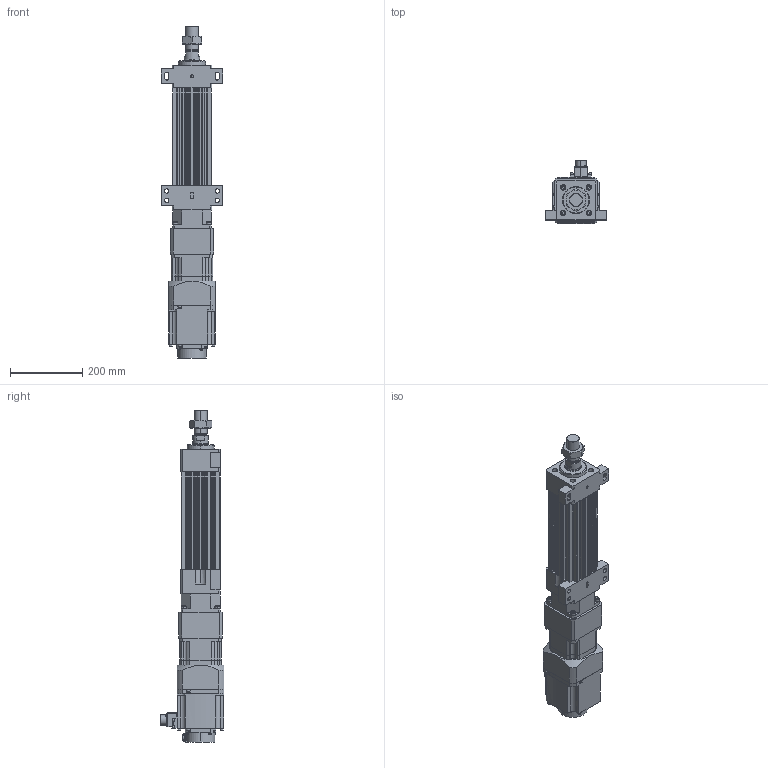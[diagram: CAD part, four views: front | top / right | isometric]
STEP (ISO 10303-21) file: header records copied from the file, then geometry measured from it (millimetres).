
FILE_DESCRIPTION (( 'STEP AP203' ), '1' );
FILE_NAME ('HES110NS(HS)-S100-W015G00-M-FFB.STEP', '2023-01-27T11:38:14', ( 'tms' ), ( '' ), 'SwSTEP 2.0', 'SolidWorks 2013', '' );
FILE_SCHEMA (( 'CONFIG_CONTROL_DESIGN' ));
Length unit declared in the file: millimetre
Products named in the file (8): AB115-003[HG-SR152]; HES110-S100-G120-FFB; P0401400706; AB1151; HG-SR152; HES110NS(HS)-S100-W015G00-M-FFB; HES110 ROD M ST100; M36X1.5P
Assembly tree (7 placements, depth 3):
  HES110NS(HS)-S100-W015G00-M-FFB
    HES110-S100-G120-FFB
    HES110 ROD M ST100
    M36X1.5P
    AB115-003[HG-SR152]
      AB1151
      P0401400706
    HG-SR152
Bounding box: 170 x 177.49 x 921.5 mm (x, y, z)
Volume: 6059444.1 mm3; surface area: 800341.5 mm2
Topology: 4 solids, 15 shells, 1194 faces, 3023 edges, 1968 vertices
Faces by surface type: plane 571, cylinder 531, cone 80, bspline 8, torus 4
Entity records: 37745 total; most frequent: CARTESIAN_POINT 7162, DIRECTION 6520, ORIENTED_EDGE 5998, EDGE_CURVE 3009, AXIS2_PLACEMENT_3D 2386, VERTEX_POINT 1968, LINE 1748, VECTOR 1748
